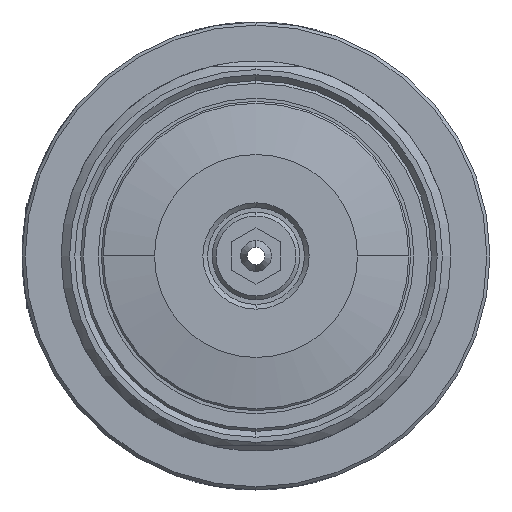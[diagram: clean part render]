
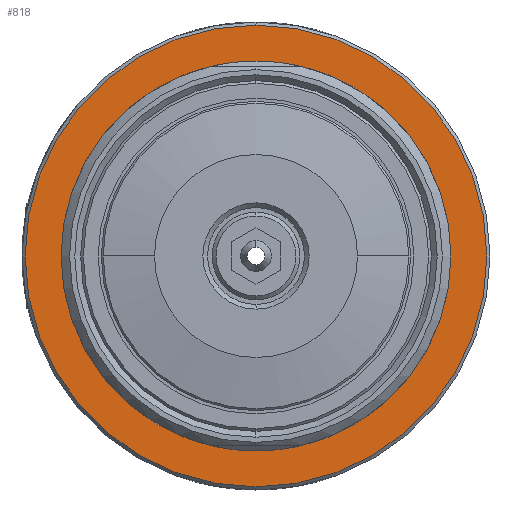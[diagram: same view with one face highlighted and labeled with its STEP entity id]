
A CAD part, left-side view. The second image highlights one B-rep face of the part: STEP entity #818.
In plain terms, the highlighted planar face has unit normal (-1, 0, 0).
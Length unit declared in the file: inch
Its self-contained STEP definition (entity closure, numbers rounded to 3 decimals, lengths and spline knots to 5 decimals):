
#123 = EDGE_CURVE ( 'NONE', #124, #181, #3860, .T. ) ;
#124 = VERTEX_POINT ( 'NONE', #3744 ) ;
#181 = VERTEX_POINT ( 'NONE', #4101 ) ;
#195 = EDGE_CURVE ( 'NONE', #207, #199, #4026, .T. ) ;
#199 = VERTEX_POINT ( 'NONE', #4011 ) ;
#207 = VERTEX_POINT ( 'NONE', #3993 ) ;
#651 = EDGE_CURVE ( 'NONE', #181, #124, #4838, .T. ) ;
#652 = ORIENTED_EDGE ( 'NONE', *, *, #653, .F. ) ;
#653 = EDGE_CURVE ( 'NONE', #199, #207, #4833, .T. ) ;
#818 = ADVANCED_FACE ( 'NONE', ( #5064, #5059 ), #5058, .T. ) ;
#819 = EDGE_LOOP ( 'NONE', ( #820, #821 ) ) ;
#820 = ORIENTED_EDGE ( 'NONE', *, *, #651, .T. ) ;
#821 = ORIENTED_EDGE ( 'NONE', *, *, #123, .T. ) ;
#822 = EDGE_LOOP ( 'NONE', ( #652, #823 ) ) ;
#823 = ORIENTED_EDGE ( 'NONE', *, *, #195, .F. ) ;
#3744 = CARTESIAN_POINT ( 'NONE',  ( -0.75, 0., 1.4775 ) ) ;
#3745 = DIRECTION ( 'NONE',  ( 0., 0., 1. ) ) ;
#3746 = DIRECTION ( 'NONE',  ( -1., 0., 0. ) ) ;
#3858 = CARTESIAN_POINT ( 'NONE',  ( -0.75, 0., 0. ) ) ;
#3859 = AXIS2_PLACEMENT_3D ( 'NONE', #3858, #3746, #3745 ) ;
#3860 = CIRCLE ( 'NONE', #3859, 1.4775 ) ;
#3993 = CARTESIAN_POINT ( 'NONE',  ( -0.75, 0., -1.225 ) ) ;
#4011 = CARTESIAN_POINT ( 'NONE',  ( -0.75, 0., 1.225 ) ) ;
#4022 = DIRECTION ( 'NONE',  ( 0., 0., 1. ) ) ;
#4023 = DIRECTION ( 'NONE',  ( -1., 0., 0. ) ) ;
#4024 = CARTESIAN_POINT ( 'NONE',  ( -0.75, 0., 0. ) ) ;
#4025 = AXIS2_PLACEMENT_3D ( 'NONE', #4024, #4023, #4022 ) ;
#4026 = CIRCLE ( 'NONE', #4025, 1.225 ) ;
#4101 = CARTESIAN_POINT ( 'NONE',  ( -0.75, 0., -1.4775 ) ) ;
#4829 = DIRECTION ( 'NONE',  ( 0., 0., 1. ) ) ;
#4830 = DIRECTION ( 'NONE',  ( -1., 0., 0. ) ) ;
#4831 = CARTESIAN_POINT ( 'NONE',  ( -0.75, 0., 0. ) ) ;
#4832 = AXIS2_PLACEMENT_3D ( 'NONE', #4831, #4830, #4829 ) ;
#4833 = CIRCLE ( 'NONE', #4832, 1.225 ) ;
#4834 = DIRECTION ( 'NONE',  ( 0., 0., 1. ) ) ;
#4835 = DIRECTION ( 'NONE',  ( -1., 0., 0. ) ) ;
#4836 = CARTESIAN_POINT ( 'NONE',  ( -0.75, 0., 0. ) ) ;
#4837 = AXIS2_PLACEMENT_3D ( 'NONE', #4836, #4835, #4834 ) ;
#4838 = CIRCLE ( 'NONE', #4837, 1.4775 ) ;
#5056 = CARTESIAN_POINT ( 'NONE',  ( -0.75, 1.225, 0. ) ) ;
#5057 = AXIS2_PLACEMENT_3D ( 'NONE', #5056, #5260, #5259 ) ;
#5058 = PLANE ( 'NONE',  #5057 ) ;
#5059 = FACE_BOUND ( 'NONE', #822, .T. ) ;
#5064 = FACE_OUTER_BOUND ( 'NONE', #819, .T. ) ;
#5259 = DIRECTION ( 'NONE',  ( 0., 0., 1. ) ) ;
#5260 = DIRECTION ( 'NONE',  ( -1., 0., 0. ) ) ;
